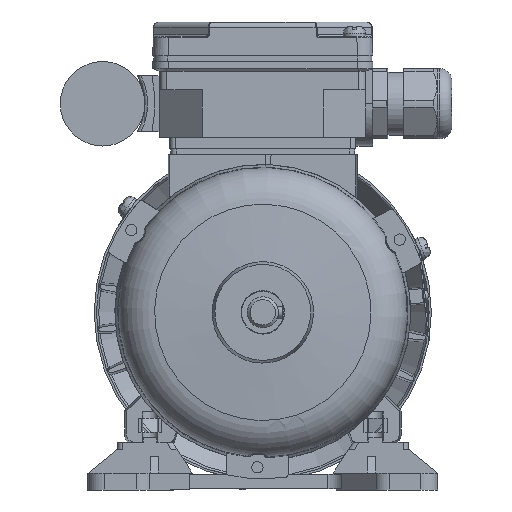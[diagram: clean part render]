
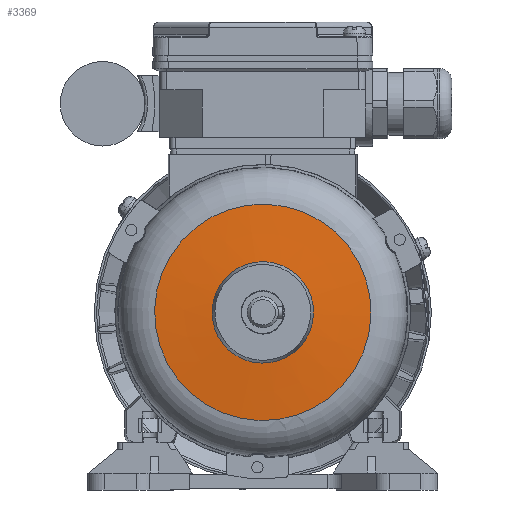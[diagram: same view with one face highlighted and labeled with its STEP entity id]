
A CAD part, left-side view. The second image highlights one B-rep face of the part: STEP entity #3369.
In plain terms, the highlighted conical face has half-angle 85.5 degrees and reference radius 38.379 mm.
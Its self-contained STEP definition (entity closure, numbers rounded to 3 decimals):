
#3369 = ADVANCED_FACE( '', ( #7697, #7698 ), #7699, .T. );
#7697 = FACE_BOUND( '', #16762, .T. );
#7698 = FACE_OUTER_BOUND( '', #16763, .T. );
#7699 = CONICAL_SURFACE( '', #16764, 38.379, 1.492 );
#16762 = EDGE_LOOP( '', ( #33041 ) );
#16763 = EDGE_LOOP( '', ( #33042 ) );
#16764 = AXIS2_PLACEMENT_3D( '', #33043, #33044, #33045 );
#33041 = ORIENTED_EDGE( '', *, *, #48741, .T. );
#33042 = ORIENTED_EDGE( '', *, *, #47872, .F. );
#33043 = CARTESIAN_POINT( '', ( 0., 0., 36.396 ) );
#33044 = DIRECTION( '', ( 0., 0., -1. ) );
#33045 = DIRECTION( '', ( -1., 0., 0. ) );
#47872 = EDGE_CURVE( '', #56541, #56541, #56542, .T. );
#48741 = EDGE_CURVE( '', #57978, #57978, #57979, .T. );
#56541 = VERTEX_POINT( '', #69126 );
#56542 = CIRCLE( '', #69127, 38.379 );
#57978 = VERTEX_POINT( '', #72811 );
#57979 = CIRCLE( '', #72812, 18. );
#69126 = CARTESIAN_POINT( '', ( -38.379, 0., 36.396 ) );
#69127 = AXIS2_PLACEMENT_3D( '', #88669, #88670, #88671 );
#72811 = CARTESIAN_POINT( '', ( -18., 0., 38. ) );
#72812 = AXIS2_PLACEMENT_3D( '', #89673, #89674, #89675 );
#88669 = CARTESIAN_POINT( '', ( 0., 0., 36.396 ) );
#88670 = DIRECTION( '', ( 0., 0., -1. ) );
#88671 = DIRECTION( '', ( -1., 0., 0. ) );
#89673 = CARTESIAN_POINT( '', ( 0., 0., 38. ) );
#89674 = DIRECTION( '', ( 0., 0., -1. ) );
#89675 = DIRECTION( '', ( -1., 0., 0. ) );
